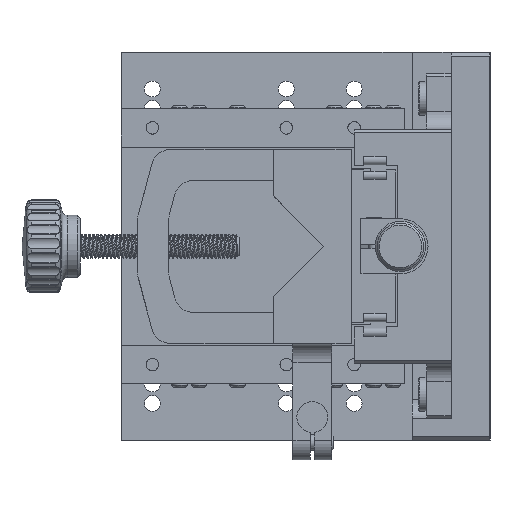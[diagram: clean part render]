
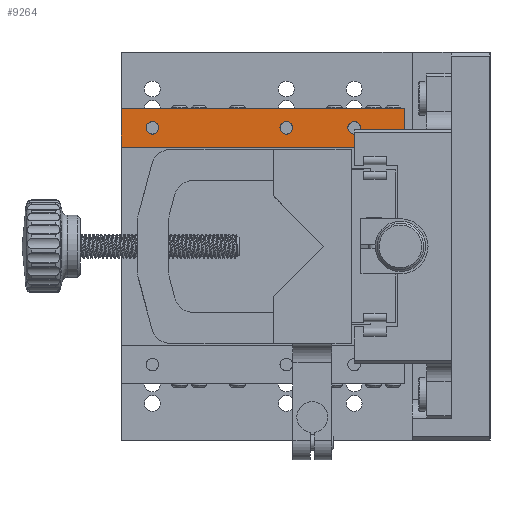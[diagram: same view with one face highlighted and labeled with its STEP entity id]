
A CAD part, left-side view. The second image highlights one B-rep face of the part: STEP entity #9264.
In plain terms, the highlighted planar face has unit normal (-1, 0, 0).
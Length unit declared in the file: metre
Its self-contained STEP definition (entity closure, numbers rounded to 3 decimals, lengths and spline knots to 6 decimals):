
#9264 = ADVANCED_FACE( '', ( #15309, #15310, #15311, #15312 ), #15313, .T. );
#15309 = FACE_OUTER_BOUND( '', #20007, .T. );
#15310 = FACE_BOUND( '', #20008, .T. );
#15311 = FACE_BOUND( '', #20009, .T. );
#15312 = FACE_BOUND( '', #20010, .T. );
#15313 = PLANE( '', #20011 );
#20007 = EDGE_LOOP( '', ( #29621, #29622, #29623, #29624 ) );
#20008 = EDGE_LOOP( '', ( #29625 ) );
#20009 = EDGE_LOOP( '', ( #29626 ) );
#20010 = EDGE_LOOP( '', ( #29627 ) );
#20011 = AXIS2_PLACEMENT_3D( '', #29628, #29629, #29630 );
#29621 = ORIENTED_EDGE( '', *, *, #49791, .F. );
#29622 = ORIENTED_EDGE( '', *, *, #49812, .F. );
#29623 = ORIENTED_EDGE( '', *, *, #49809, .T. );
#29624 = ORIENTED_EDGE( '', *, *, #49811, .T. );
#29625 = ORIENTED_EDGE( '', *, *, #49805, .F. );
#29626 = ORIENTED_EDGE( '', *, *, #49806, .F. );
#29627 = ORIENTED_EDGE( '', *, *, #49807, .F. );
#29628 = CARTESIAN_POINT( '', ( 0.029426, 0.085, 0.005375 ) );
#29629 = DIRECTION( '', ( -1., 0., 0. ) );
#29630 = DIRECTION( '', ( 0., -1., 0. ) );
#49791 = EDGE_CURVE( '', #56732, #56734, #56735, .T. );
#49805 = EDGE_CURVE( '', #56761, #56761, #56762, .T. );
#49806 = EDGE_CURVE( '', #56763, #56763, #56764, .T. );
#49807 = EDGE_CURVE( '', #56765, #56765, #56766, .T. );
#49809 = EDGE_CURVE( '', #56769, #56767, #56770, .T. );
#49811 = EDGE_CURVE( '', #56767, #56734, #56772, .T. );
#49812 = EDGE_CURVE( '', #56769, #56732, #56773, .T. );
#56732 = VERTEX_POINT( '', #62996 );
#56734 = VERTEX_POINT( '', #62999 );
#56735 = LINE( '', #63000, #63001 );
#56761 = VERTEX_POINT( '', #63028 );
#56762 = CIRCLE( '', #63029, 0.001621 );
#56763 = VERTEX_POINT( '', #63030 );
#56764 = CIRCLE( '', #63031, 0.001621 );
#56765 = VERTEX_POINT( '', #63032 );
#56766 = CIRCLE( '', #63033, 0.001621 );
#56767 = VERTEX_POINT( '', #63034 );
#56769 = VERTEX_POINT( '', #63037 );
#56770 = LINE( '', #63038, #63039 );
#56772 = LINE( '', #63042, #63043 );
#56773 = LINE( '', #63044, #63045 );
#62996 = CARTESIAN_POINT( '', ( 0.029426, 0.012, 0.005375 ) );
#62999 = CARTESIAN_POINT( '', ( 0.029426, 0.012, -0.004625 ) );
#63000 = CARTESIAN_POINT( '', ( 0.029426, 0.012, 0.012851 ) );
#63001 = VECTOR( '', #66157, 1. );
#63028 = CARTESIAN_POINT( '', ( 0.029426, 0.023379, 0.000375 ) );
#63029 = AXIS2_PLACEMENT_3D( '', #66195, #66196, #66197 );
#63030 = CARTESIAN_POINT( '', ( 0.029426, 0.075379, 0.000375 ) );
#63031 = AXIS2_PLACEMENT_3D( '', #66198, #66199, #66200 );
#63032 = CARTESIAN_POINT( '', ( 0.029426, 0.040879, 0.000375 ) );
#63033 = AXIS2_PLACEMENT_3D( '', #66201, #66202, #66203 );
#63034 = CARTESIAN_POINT( '', ( 0.029426, 0.085, -0.004625 ) );
#63037 = CARTESIAN_POINT( '', ( 0.029426, 0.085, 0.005375 ) );
#63038 = CARTESIAN_POINT( '', ( 0.029426, 0.085, 0.005375 ) );
#63039 = VECTOR( '', #66205, 1. );
#63042 = CARTESIAN_POINT( '', ( 0.029426, 0.085, -0.004625 ) );
#63043 = VECTOR( '', #66207, 1. );
#63044 = CARTESIAN_POINT( '', ( 0.029426, 0.085, 0.005375 ) );
#63045 = VECTOR( '', #66208, 1. );
#66157 = DIRECTION( '', ( 0., 0., -1. ) );
#66195 = CARTESIAN_POINT( '', ( 0.029426, 0.025, 0.000375 ) );
#66196 = DIRECTION( '', ( -1., 0., 0. ) );
#66197 = DIRECTION( '', ( 0., -1., 0. ) );
#66198 = CARTESIAN_POINT( '', ( 0.029426, 0.077, 0.000375 ) );
#66199 = DIRECTION( '', ( -1., 0., 0. ) );
#66200 = DIRECTION( '', ( 0., -1., 0. ) );
#66201 = CARTESIAN_POINT( '', ( 0.029426, 0.0425, 0.000375 ) );
#66202 = DIRECTION( '', ( -1., 0., 0. ) );
#66203 = DIRECTION( '', ( 0., -1., 0. ) );
#66205 = DIRECTION( '', ( 0., 0., -1. ) );
#66207 = DIRECTION( '', ( 0., -1., 0. ) );
#66208 = DIRECTION( '', ( 0., -1., 0. ) );
